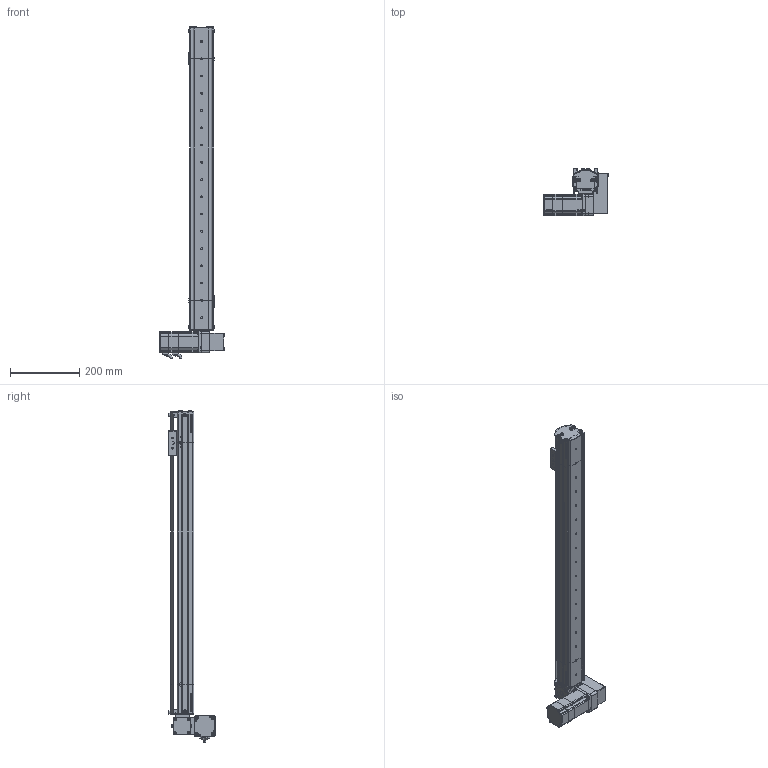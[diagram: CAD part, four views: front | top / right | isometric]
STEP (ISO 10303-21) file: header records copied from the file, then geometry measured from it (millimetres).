
FILE_DESCRIPTION (( 'STEP AP214' ), '1' );
FILE_NAME ('S07 TBN LU S700.STEP', '2010-06-29T11:37:03', ( 'Conseil Régional Haute-Normandie' ), ( 'Conseil Régional Haute-Normandie' ), 'SwSTEP 2.0', 'SolidWorks 2010', '' );
FILE_SCHEMA (( 'AUTOMOTIVE_DESIGN' ));
Length unit declared in the file: millimetre
Products named in the file (41): Chariot; cache t皻e_Default; Pièce5^S07 LU(146); renvoi LU_Default; vis M5 L16_Default; Couroie t皻e_Default; Poulie head_Default; plaque de bout LU_Default; corp moteur TB(146)_Default; Corp S07 course 700_Default; couvercle moteur S07 TB; S07 LU(146)_Default; couvercle S07 course 700 ; Couroie  course 700_Default; vis M5 L5_Default; P2 90A_Default; P1_Default; GMB 60 90 310_Default; Conecteur 60BLDC_Default; Axe 60BLDC_Default; P4_Default; P3 90A_Default; Cvis M5 L30_Default; VisM3_Default; Conecteur2 60BLDC_Default; corp tail TB_Default; S07 TB tail (78)_Default; Vis M5 L16-2_Default; Poulie_Default; couvercle tail TB; plaque de bout_Default; vis M5 L12_Default; T皻e de poulie_Default; guide; CHariot_Default; couroie tail_Default; Plaque racord_Default; S07 TBN LU S700; cache t皻e axe_Default; Course C L700_Default
Assembly tree (80 placements, depth 4):
  Pièce5^S07 LU(146)
  S07 TBN LU S700
    Course C L700_Default
      Couroie  course 700_Default
      Corp S07 course 700_Default
      couvercle S07 course 700 
    S07 LU(146)_Default
      Plaque racord_Default
      Cvis M5 L30_Default  x2
      cache t皻e_Default  x2
      Vis M5 L16-2_Default  x8
      vis M5 L12_Default  x6
      plaque de bout LU_Default
      corp moteur TB(146)_Default
      vis M5 L5_Default  x6
      cache t皻e axe_Default
      couvercle moteur S07 TB
      GMB 60 90 310_Default
        VisM3_Default  x12
        P4_Default
        P2 90A_Default
        Axe 60BLDC_Default
        Conecteur2 60BLDC_Default
        Conecteur 60BLDC_Default
        P3 90A_Default
        P1_Default
      renvoi LU_Default
      Poulie head_Default
      Couroie t皻e_Default
    S07 TB tail (78)_Default
      plaque de bout_Default
      vis M5 L12_Default  x10
      couvercle tail TB
      corp tail TB_Default
      couroie tail_Default
      Poulie_Default
        Poulie_Default
        T皻e de poulie_Default
    CHariot_Default
      vis M5 L16_Default  x2
      guide
      Chariot
Bounding box: 190.2 x 134.7 x 962 mm (x, y, z)
Volume: 2174794.8 mm3; surface area: 905896.9 mm2
Topology: 102 solids, 102 shells, 3916 faces, 9768 edges, 6309 vertices
Faces by surface type: plane 2228, cylinder 758, bspline 677, cone 125, torus 124, sphere 4
Entity records: 167137 total; most frequent: CARTESIAN_POINT 75187, ORIENTED_EDGE 15448, DIRECTION 12279, EDGE_CURVE 7724, VERTEX_POINT 5097, VECTOR 5045, LINE 5045, AXIS2_PLACEMENT_3D 3617
